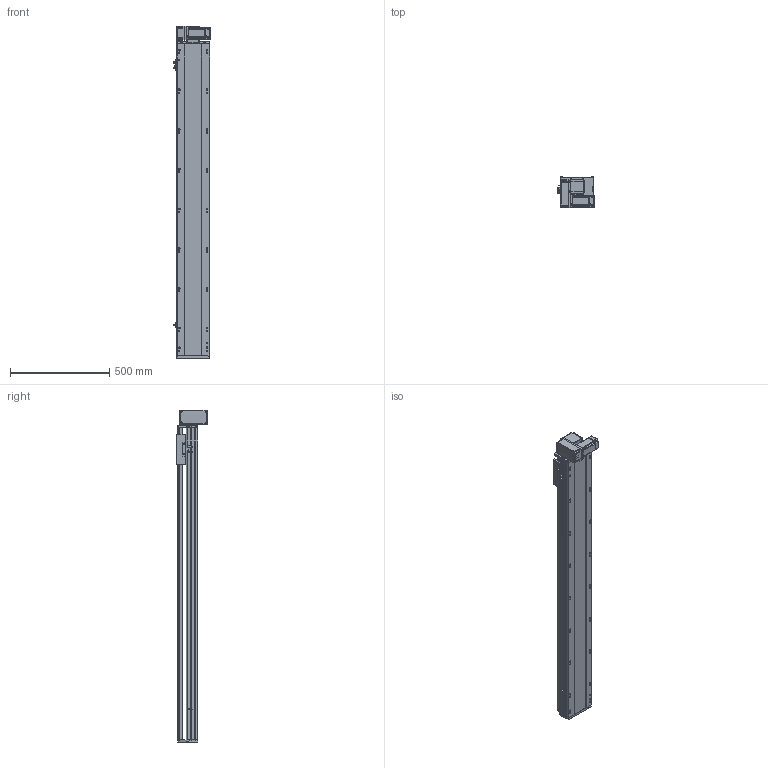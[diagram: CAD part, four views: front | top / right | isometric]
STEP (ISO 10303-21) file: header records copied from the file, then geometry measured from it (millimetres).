
FILE_DESCRIPTION (( 'STEP AP214' ), '1' );
FILE_NAME ('RTB17S-XX-1300-LM-M40-C4.STEP', '2025-12-11T06:28:18', ( '' ), ( '' ), 'SwSTEP 2.0', 'SolidWorks 2018', '' );
FILE_SCHEMA (( 'AUTOMOTIVE_DESIGN' ));
Length unit declared in the file: millimetre
Products named in the file (14): RTB14-L-017P^RTB17S-LM-々湍釱蚾饜-400W_RTB17S-XX-XX-LM-M40-C4; RMP17S-L-014-T20--々湍釱^RTB17S-LM-々湍釱蚾饜-400W_RTB17S-XX-XX-LM-M40-C4; RTB17S-L-004佪裝蹟譫蟀諉釱^RTB17S-XX-XX-LM-M40-C4; OMRON EE-SX672 传感器^RTB17S-XX-XX-LM-M40-C4; RTB17S-L-001耜醱啣^RTB17S-XX-XX-LM-M40-C4; RTB17S-L-007奻裔^RTB17S-XX-XX-LM-M40-C4; RTB14-L-005P--轴承塑胶压盖^RTB17S-LM-皮带座装配-400W_RTB17S-XX-XX-LM-M40-C4; 400W侜督萇儂^RTB17S-XX-XX-LM-M40-C4; RTB17S-XX-1300-LM-M40-C4; RTB17-R-011菁釱^RTB17S-XX-XX-LM-M40-C4; RTB17S-LM-々湍釱蚾饜-400W^RTB17S-XX-XX-LM-M40-C4; RTB14-L-018P^RTB17S-LM-々湍釱蚾饜-400W_RTB17S-XX-XX-LM-M40-C4; RTH13-BL-012覜茼え俋离^RTB17S-XX-XX-LM-M40-C4; RTB14-L-008-M20--萇儂啣^RTB17S-LM-々湍釱蚾饜-400W_RTB17S-XX-XX-LM-M40-C4
Assembly tree (16 placements, depth 3):
  RTB17S-XX-1300-LM-M40-C4
    RTB17-R-011菁釱^RTB17S-XX-XX-LM-M40-C4
    RTB17S-L-007奻裔^RTB17S-XX-XX-LM-M40-C4
    OMRON EE-SX672 传感器^RTB17S-XX-XX-LM-M40-C4  x3
    RTH13-BL-012覜茼え俋离^RTB17S-XX-XX-LM-M40-C4
    RTB17S-L-001耜醱啣^RTB17S-XX-XX-LM-M40-C4
    400W侜督萇儂^RTB17S-XX-XX-LM-M40-C4
    RTB17S-L-004佪裝蹟譫蟀諉釱^RTB17S-XX-XX-LM-M40-C4
    RTB17S-LM-々湍釱蚾饜-400W^RTB17S-XX-XX-LM-M40-C4
      RMP17S-L-014-T20--々湍釱^RTB17S-LM-々湍釱蚾饜-400W_RTB17S-XX-XX-LM-M40-C4
      RTB14-L-005P--轴承塑胶压盖^RTB17S-LM-皮带座装配-400W_RTB17S-XX-XX-LM-M40-C4
      RTB14-L-008-M20--萇儂啣^RTB17S-LM-々湍釱蚾饜-400W_RTB17S-XX-XX-LM-M40-C4
      RTB14-L-017P^RTB17S-LM-々湍釱蚾饜-400W_RTB17S-XX-XX-LM-M40-C4  x2
      RTB14-L-018P^RTB17S-LM-々湍釱蚾饜-400W_RTB17S-XX-XX-LM-M40-C4
Bounding box: 186 x 156.5 x 1672.5 mm (x, y, z)
Volume: 14818216.7 mm3; surface area: 1765751.6 mm2
Topology: 15 solids, 15 shells, 2237 faces, 6195 edges, 4041 vertices
Faces by surface type: plane 1072, cylinder 717, bspline 301, cone 139, torus 8
Entity records: 64169 total; most frequent: CARTESIAN_POINT 18000, ORIENTED_EDGE 9234, DIRECTION 8576, EDGE_CURVE 4617, VERTEX_POINT 3029, AXIS2_PLACEMENT_3D 2959, LINE 2658, VECTOR 2658
